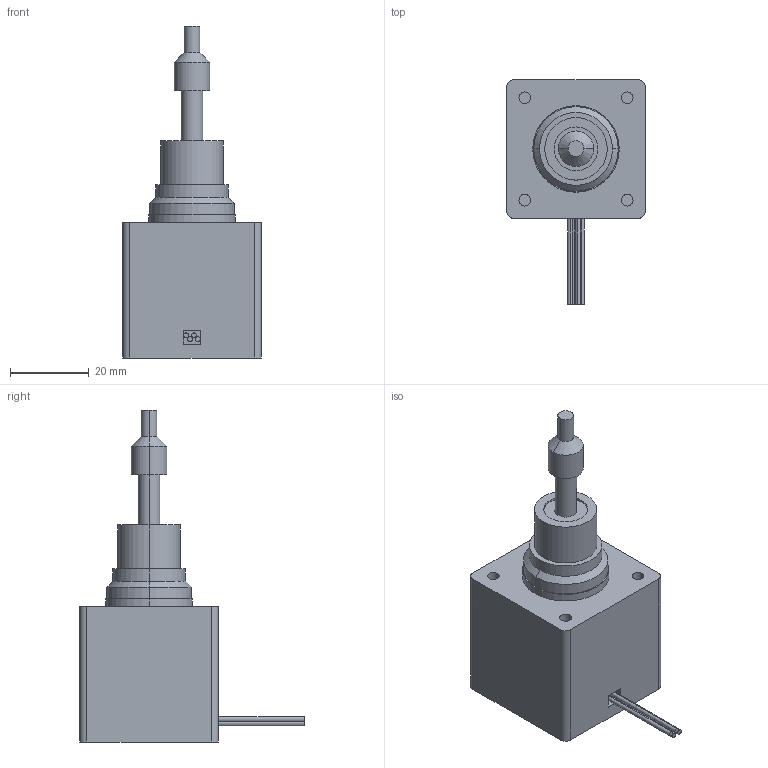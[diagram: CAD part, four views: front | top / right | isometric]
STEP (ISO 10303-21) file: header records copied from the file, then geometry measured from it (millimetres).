
FILE_DESCRIPTION (( 'STEP AP214' ), '1' );
FILE_NAME ('AMETEK-35H4N-2.33-0.5-12.STEP', '2019-08-25T09:01:14', ( '' ), ( '' ), 'SwSTEP 2.0', 'SolidWorks 2019', '' );
FILE_SCHEMA (( 'AUTOMOTIVE_DESIGN' ));
Length unit declared in the file: inch
Products named in the file (1): AMETEK-35H4N-2.33-0.5-12
Bounding box: 35.2 x 57.02 x 84.39 mm (x, y, z)
Volume: 47355.7 mm3; surface area: 10499 mm2
Topology: 2 solids, 2 shells, 71 faces, 148 edges, 96 vertices
Faces by surface type: cylinder 40, plane 27, cone 4
Entity records: 2857 total; most frequent: DIRECTION 372, CARTESIAN_POINT 316, ORIENTED_EDGE 296, AXIS2_PLACEMENT_3D 152, EDGE_CURVE 148, VERTEX_POINT 96, EDGE_LOOP 88, CIRCLE 80
